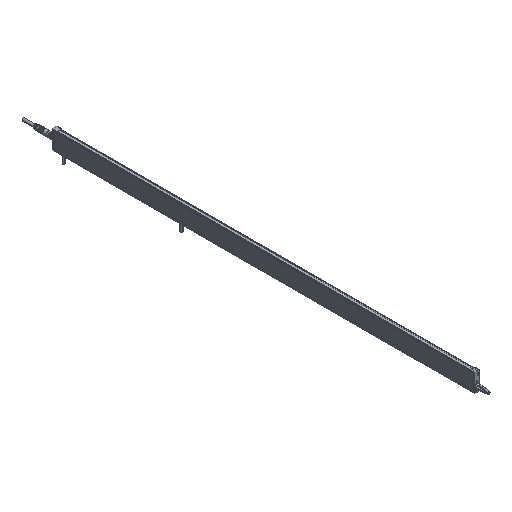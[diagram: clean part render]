
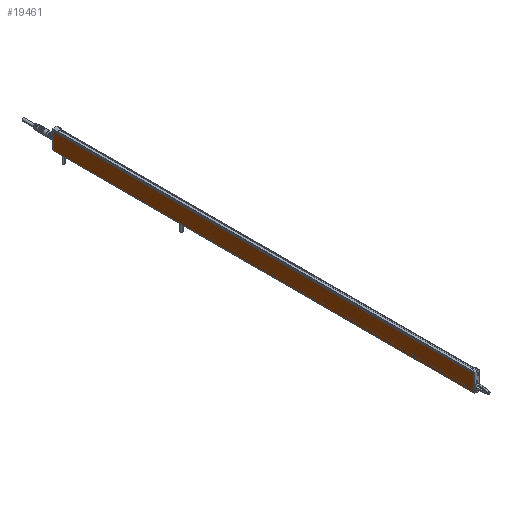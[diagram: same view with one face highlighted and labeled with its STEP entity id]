
A CAD part, isometric view. The second image highlights one B-rep face of the part: STEP entity #19461.
In plain terms, the highlighted planar face has unit normal (-1, 0, 0).
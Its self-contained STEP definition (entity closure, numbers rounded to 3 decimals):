
#1311 = AXIS2_PLACEMENT_3D ( 'NONE', #4255, #22522, #27929 ) ;
#2384 = DIRECTION ( 'NONE',  ( 0., -1., 0. ) ) ;
#3511 = CARTESIAN_POINT ( 'NONE',  ( -9., 0., 28.5 ) ) ;
#3721 = ORIENTED_EDGE ( 'NONE', *, *, #32480, .T. ) ;
#3974 = DIRECTION ( 'NONE',  ( 0., 0., -1. ) ) ;
#4066 = ORIENTED_EDGE ( 'NONE', *, *, #6960, .F. ) ;
#4255 = CARTESIAN_POINT ( 'NONE',  ( -9., 712., 28.5 ) ) ;
#6888 = LINE ( 'NONE', #13822, #11007 ) ;
#6960 = EDGE_CURVE ( 'NONE', #12721, #10959, #28742, .T. ) ;
#7331 = FACE_OUTER_BOUND ( 'NONE', #14110, .T. ) ;
#8975 = CARTESIAN_POINT ( 'NONE',  ( -9., 712., 0.5 ) ) ;
#10959 = VERTEX_POINT ( 'NONE', #33442 ) ;
#11007 = VECTOR ( 'NONE', #24600, 1000. ) ;
#11749 = VERTEX_POINT ( 'NONE', #27385 ) ;
#12721 = VERTEX_POINT ( 'NONE', #29136 ) ;
#13822 = CARTESIAN_POINT ( 'NONE',  ( -9., 712., 28.5 ) ) ;
#14110 = EDGE_LOOP ( 'NONE', ( #4066, #23339, #20833, #3721 ) ) ;
#15907 = VECTOR ( 'NONE', #3974, 1000. ) ;
#18354 = VECTOR ( 'NONE', #22729, 1000. ) ;
#19461 = ADVANCED_FACE ( 'NONE', ( #7331 ), #29791, .T. ) ;
#20833 = ORIENTED_EDGE ( 'NONE', *, *, #21759, .T. ) ;
#21759 = EDGE_CURVE ( 'NONE', #11749, #31844, #6888, .T. ) ;
#22194 = VECTOR ( 'NONE', #2384, 1000. ) ;
#22522 = DIRECTION ( 'NONE',  ( -1., 0., 0. ) ) ;
#22729 = DIRECTION ( 'NONE',  ( 0., -1., 0. ) ) ;
#23339 = ORIENTED_EDGE ( 'NONE', *, *, #24152, .F. ) ;
#24152 = EDGE_CURVE ( 'NONE', #11749, #12721, #28391, .T. ) ;
#24600 = DIRECTION ( 'NONE',  ( 0., 0., -1. ) ) ;
#27385 = CARTESIAN_POINT ( 'NONE',  ( -9., 712., 28.5 ) ) ;
#27929 = DIRECTION ( 'NONE',  ( 0., -1., 0. ) ) ;
#28391 = LINE ( 'NONE', #31741, #22194 ) ;
#28742 = LINE ( 'NONE', #3511, #15907 ) ;
#29136 = CARTESIAN_POINT ( 'NONE',  ( -9., 0., 28.5 ) ) ;
#29791 = PLANE ( 'NONE',  #1311 ) ;
#30443 = CARTESIAN_POINT ( 'NONE',  ( -9., 712., 0.5 ) ) ;
#31741 = CARTESIAN_POINT ( 'NONE',  ( -9., 712., 28.5 ) ) ;
#31844 = VERTEX_POINT ( 'NONE', #8975 ) ;
#32480 = EDGE_CURVE ( 'NONE', #31844, #10959, #34085, .T. ) ;
#33442 = CARTESIAN_POINT ( 'NONE',  ( -9., 0., 0.5 ) ) ;
#34085 = LINE ( 'NONE', #30443, #18354 ) ;
